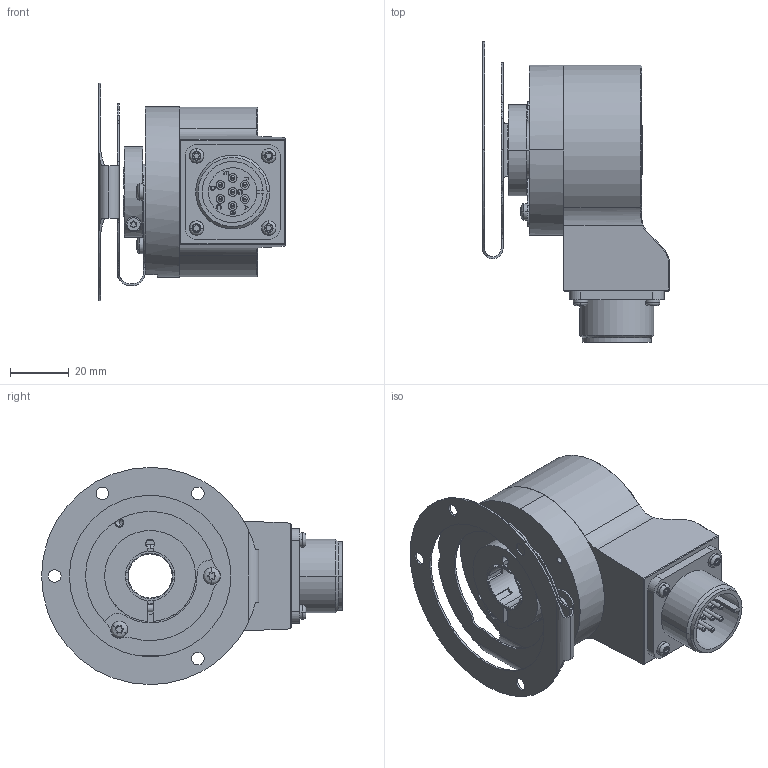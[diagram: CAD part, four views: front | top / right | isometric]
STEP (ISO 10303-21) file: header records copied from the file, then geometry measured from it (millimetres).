
FILE_DESCRIPTION (( 'STEP AP203' ), '1' );
FILE_NAME ('K58I.OXX.XXXXX.XH13515.6XRCH.step', '2025-12-08T13:23:28', ( '' ), ( '' ), 'SwSTEP 2.0', 'SolidWorks 2021', '' );
FILE_SCHEMA (( 'CONFIG_CONTROL_DESIGN' ));
Length unit declared in the file: millimetre
Products named in the file (1): K58I.OXX.XXXXX.XH13515.6XRCH
Bounding box: 63.69 x 102.5 x 74 mm (x, y, z)
Volume: 132075.1 mm3; surface area: 45479.7 mm2
Topology: 7 solids, 7 shells, 612 faces, 1571 edges, 1010 vertices
Faces by surface type: cylinder 300, plane 191, bspline 54, cone 47, torus 20
Entity records: 23218 total; most frequent: CARTESIAN_POINT 8270, DIRECTION 3119, ORIENTED_EDGE 3114, EDGE_CURVE 1557, AXIS2_PLACEMENT_3D 1199, VERTEX_POINT 1010, LINE 721, VECTOR 721
